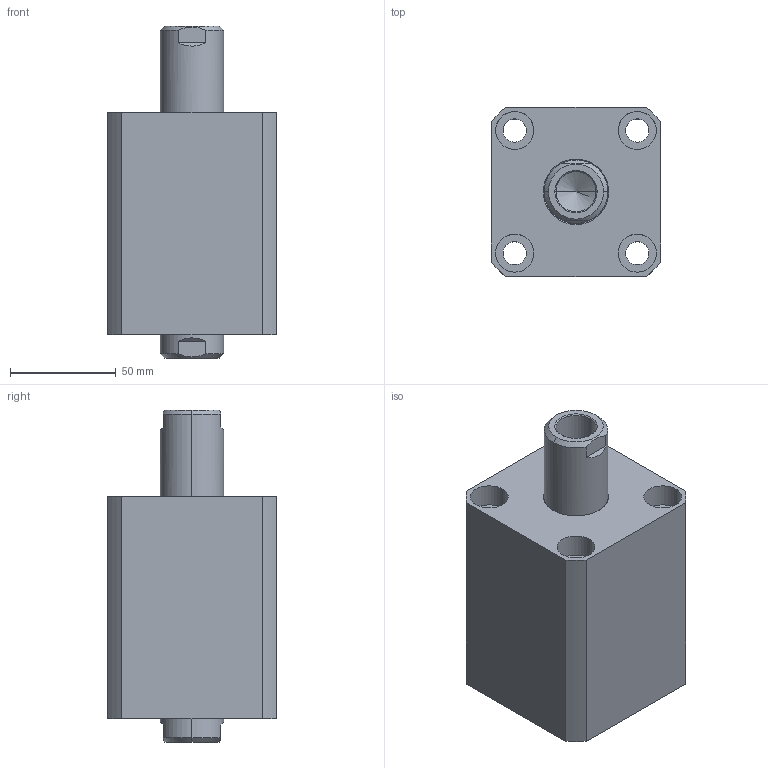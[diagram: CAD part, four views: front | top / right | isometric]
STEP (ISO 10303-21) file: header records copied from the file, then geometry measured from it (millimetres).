
FILE_DESCRIPTION (( 'STEP AP203' ), '1' );
FILE_NAME ('CHTB-SW50-30N.STEP', '2018-05-21T05:51:50', ( '' ), ( '' ), 'SwSTEP 2.0', 'SolidWorks 2015', '' );
FILE_SCHEMA (( 'CONFIG_CONTROL_DESIGN' ));
Length unit declared in the file: millimetre
Products named in the file (4): 活塞杆SW50-30N; CHTB-SW50-30N; 掛极SW50-30N; ヶ裔
Assembly tree (3 placements, depth 2):
  CHTB-SW50-30N
    掛极SW50-30N
    活塞杆SW50-30N
    ヶ裔
Bounding box: 80 x 80 x 157 mm (x, y, z)
Volume: 581302.1 mm3; surface area: 115807.9 mm2
Topology: 3 solids, 3 shells, 225 faces, 528 edges, 331 vertices
Faces by surface type: cylinder 118, plane 46, cone 33, torus 24, bspline 4
Entity records: 9698 total; most frequent: CARTESIAN_POINT 4235, DIRECTION 1104, ORIENTED_EDGE 1040, EDGE_CURVE 520, AXIS2_PLACEMENT_3D 462, VERTEX_POINT 331, EDGE_LOOP 271, CIRCLE 235
